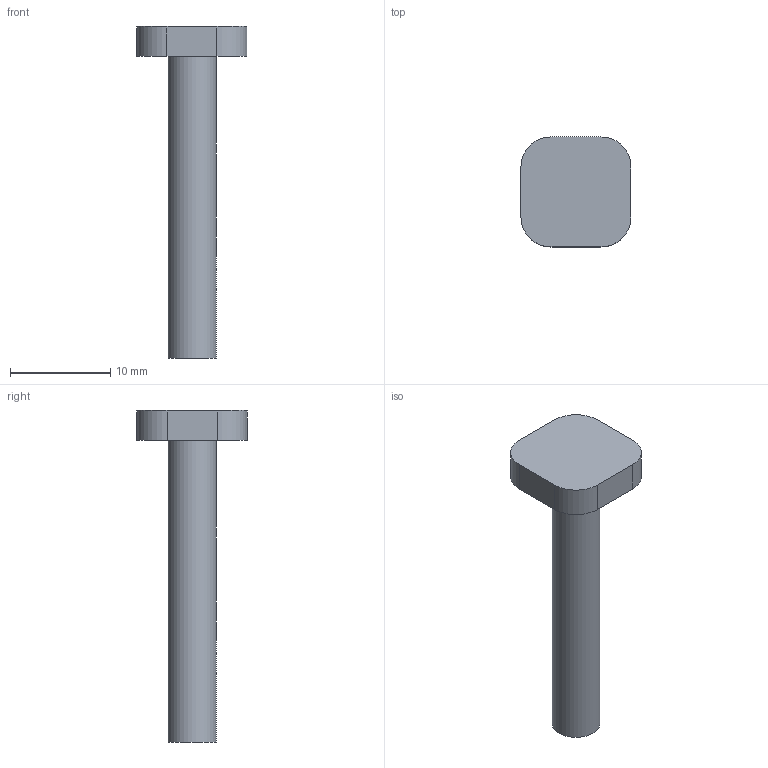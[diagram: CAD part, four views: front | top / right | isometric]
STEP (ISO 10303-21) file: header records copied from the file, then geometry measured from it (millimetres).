
FILE_DESCRIPTION(('Open CASCADE Model'),'2;1');
FILE_NAME('Open CASCADE Shape Model','2026-09-13T15:28:56',('Author'),( 'Open CASCADE'),'Open CASCADE STEP processor 7.9','build123d', 'Unknown');
FILE_SCHEMA(('AUTOMOTIVE_DESIGN { 1 0 10303 214 1 1 1 1 }'));
Length unit declared in the file: millimetre
Products named in the file (2): =>[0:1:1:2]; COMPOUND
Assembly tree (1 placements, depth 2):
  =>[0:1:1:2]
    COMPOUND
Bounding box: 11 x 11 x 33.2 mm (x, y, z)
Volume: 886.3 mm3; surface area: 798.5 mm2
Topology: 1 solids, 1 shells, 12 faces, 27 edges, 18 vertices
Faces by surface type: plane 7, cylinder 5
Full cylindrical faces by diameter (mm): 4.8 x1
Entity records: 744 total; most frequent: CARTESIAN_POINT 161, DIRECTION 111, LINE 61, VECTOR 61, ORIENTED_EDGE 54, PCURVE 54, DEFINITIONAL_REPRESENTATION 54, EDGE_CURVE 27
